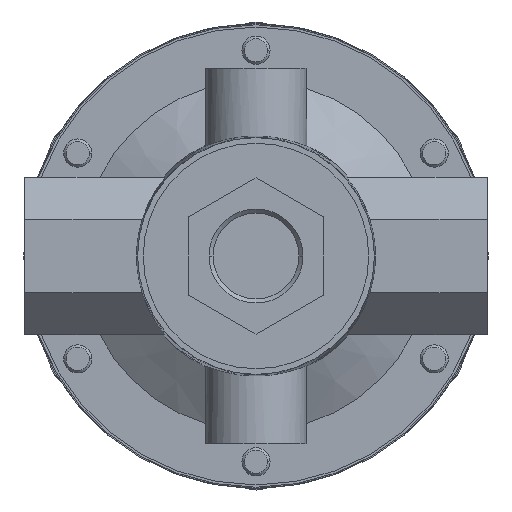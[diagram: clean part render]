
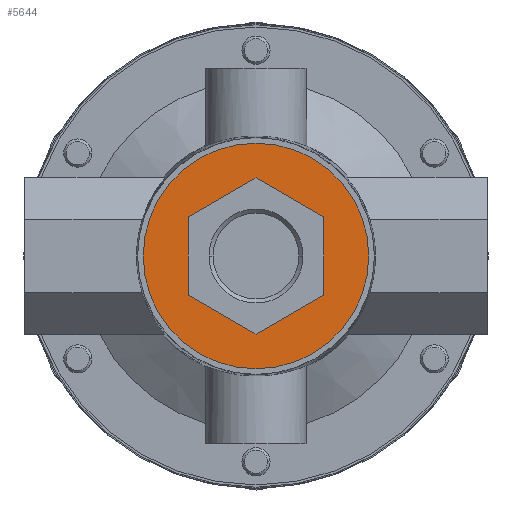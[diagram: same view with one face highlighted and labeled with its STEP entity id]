
A CAD part, front view. The second image highlights one B-rep face of the part: STEP entity #5644.
In plain terms, the highlighted planar face has unit normal (0, -1, 0).
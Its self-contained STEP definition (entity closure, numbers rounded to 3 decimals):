
#2070=CARTESIAN_POINT('',(0.,10.5,0.));
#2071=DIRECTION('',(0.,-1.,0.));
#2072=DIRECTION('',(-1.,0.,0.));
#2073=AXIS2_PLACEMENT_3D('',#2070,#2071,#2072);
#2080=DIRECTION('',(-0.866,0.,0.5));
#2081=VECTOR('',#2080,13.856);
#2082=CARTESIAN_POINT('',(0.,10.5,-13.856));
#2083=LINE('',#2082,#2081);
#2084=DIRECTION('',(-0.866,0.,-0.5));
#2085=VECTOR('',#2084,13.856);
#2086=CARTESIAN_POINT('',(12.,10.5,-6.928));
#2087=LINE('',#2086,#2085);
#2088=DIRECTION('',(0.,0.,-1.));
#2089=VECTOR('',#2088,13.856);
#2090=CARTESIAN_POINT('',(12.,10.5,6.928));
#2091=LINE('',#2090,#2089);
#2092=DIRECTION('',(0.866,0.,-0.5));
#2093=VECTOR('',#2092,13.856);
#2094=CARTESIAN_POINT('',(0.,10.5,13.856));
#2095=LINE('',#2094,#2093);
#2096=DIRECTION('',(0.866,0.,0.5));
#2097=VECTOR('',#2096,13.856);
#2098=CARTESIAN_POINT('',(-12.,10.5,6.928));
#2099=LINE('',#2098,#2097);
#2100=DIRECTION('',(0.,0.,1.));
#2101=VECTOR('',#2100,13.856);
#2102=CARTESIAN_POINT('',(-12.,10.5,-6.928));
#2103=LINE('',#2102,#2101);
#2198=CARTESIAN_POINT('',(0.,10.5,0.));
#2199=DIRECTION('',(0.,-1.,0.));
#2200=DIRECTION('',(1.,0.,0.));
#2201=AXIS2_PLACEMENT_3D('',#2198,#2199,#2200);
#2623=CARTESIAN_POINT('',(0.,10.5,-13.856));
#2624=CARTESIAN_POINT('',(-12.,10.5,-6.928));
#2625=VERTEX_POINT('',#2623);
#2626=VERTEX_POINT('',#2624);
#2627=CARTESIAN_POINT('',(-12.,10.5,6.928));
#2628=VERTEX_POINT('',#2627);
#2629=CARTESIAN_POINT('',(0.,10.5,13.856));
#2630=VERTEX_POINT('',#2629);
#2631=CARTESIAN_POINT('',(12.,10.5,6.928));
#2632=VERTEX_POINT('',#2631);
#2633=CARTESIAN_POINT('',(12.,10.5,-6.928));
#2634=VERTEX_POINT('',#2633);
#2647=CARTESIAN_POINT('',(-20.,10.5,0.));
#2648=CARTESIAN_POINT('',(20.,10.5,0.));
#2649=VERTEX_POINT('',#2647);
#2650=VERTEX_POINT('',#2648);
#5620=CARTESIAN_POINT('',(0.,10.5,0.));
#5621=DIRECTION('',(0.,-1.,0.));
#5622=DIRECTION('',(1.,0.,0.));
#5623=AXIS2_PLACEMENT_3D('',#5620,#5621,#5622);
#5624=PLANE('',#5623);
#5625=ORIENTED_EDGE('',*,*,#5610,.F.);
#5627=ORIENTED_EDGE('',*,*,#5626,.F.);
#5628=EDGE_LOOP('',(#5625,#5627));
#5629=FACE_OUTER_BOUND('',#5628,.F.);
#5631=ORIENTED_EDGE('',*,*,#5630,.F.);
#5633=ORIENTED_EDGE('',*,*,#5632,.F.);
#5635=ORIENTED_EDGE('',*,*,#5634,.F.);
#5637=ORIENTED_EDGE('',*,*,#5636,.F.);
#5639=ORIENTED_EDGE('',*,*,#5638,.F.);
#5641=ORIENTED_EDGE('',*,*,#5640,.F.);
#5642=EDGE_LOOP('',(#5631,#5633,#5635,#5637,#5639,#5641));
#5643=FACE_BOUND('',#5642,.F.);
#2074=CIRCLE('',#2073,20.);
#2202=CIRCLE('',#2201,20.);
#5610=EDGE_CURVE('',#2649,#2650,#2074,.T.);
#5626=EDGE_CURVE('',#2650,#2649,#2202,.T.);
#5630=EDGE_CURVE('',#2625,#2626,#2083,.T.);
#5632=EDGE_CURVE('',#2634,#2625,#2087,.T.);
#5634=EDGE_CURVE('',#2632,#2634,#2091,.T.);
#5636=EDGE_CURVE('',#2630,#2632,#2095,.T.);
#5638=EDGE_CURVE('',#2628,#2630,#2099,.T.);
#5640=EDGE_CURVE('',#2626,#2628,#2103,.T.);
#5644=ADVANCED_FACE('',(#5629,#5643),#5624,.T.);
